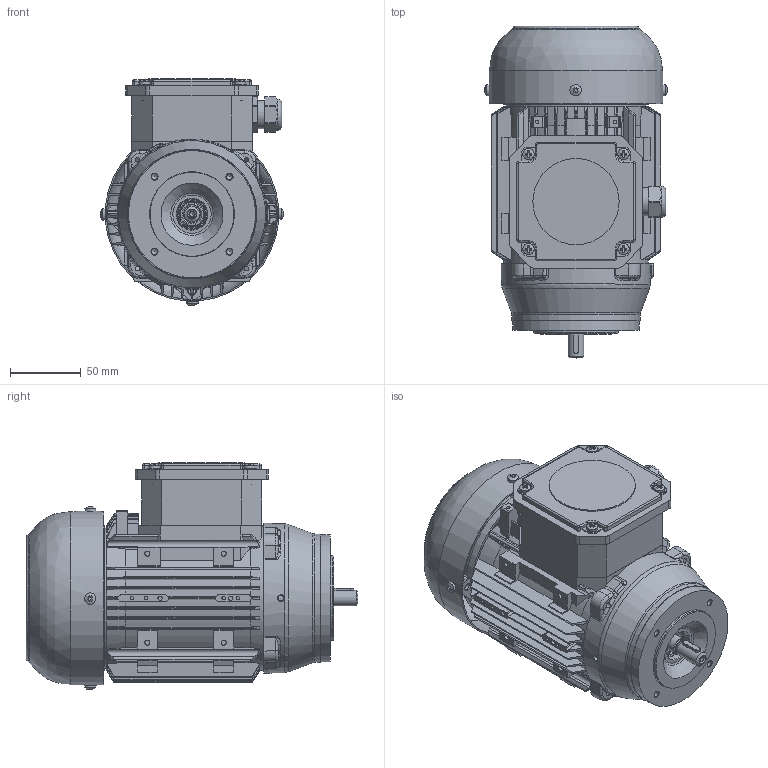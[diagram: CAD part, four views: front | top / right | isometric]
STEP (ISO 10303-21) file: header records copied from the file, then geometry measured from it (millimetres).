
FILE_DESCRIPTION(/* description */ (''),/* implementation_level */ '2;1');
FILE_NAME(/* name */ 'OUTLOOK VIEW QH63 FC B14 FT75 SPL.stp',/* time_stamp */ '2021-09-21T10:47:50+03:00',/* author */ (''),/* organization */ (''),/* preprocessor_version */ 'ST-DEVELOPER v16',/* originating_system */ 'SIEMENS PLM Software NX 11.0',/* authorisation */ '');
FILE_SCHEMA (('AUTOMOTIVE_DESIGN { 1 0 10303 214 3 1 1 1 }'));
Products named in the file (1): 260652D491E0rv03
Bounding box: 129.21 x 234.84 x 160.6 mm (x, y, z)
Volume: 550875.7 mm3; surface area: 370786.6 mm2
Topology: 39 solids, 41 shells, 2818 faces, 7333 edges, 4620 vertices
Faces by surface type: plane 1152, cylinder 914, bspline 328, cone 219, torus 128, sphere 60, extrusion 17
Full cylindrical faces by diameter (mm): 1.7 x2, 2.5 x12, 3 x4, 3.15 x1, 3.3 x10, 3.65 x14, 4 x9, 4.2 x4, 4.3 x1, 4.5 x4, 4.65 x4, 4.8 x4, 5 x4, 5.1 x1, 5.5 x1, 8 x9, 10.4 x1, 11 x2, 11.4 x2, 11.5 x1, 12 x5, 12.2 x1, 12.5 x1, 13 x1, 14.5 x1, 15.5 x2, 18 x1, 18.45 x8, 18.5 x1, 18.9 x1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
Entity records: 96116 total; most frequent: CARTESIAN_POINT 26076, ORIENTED_EDGE 13598, DIRECTION 13133, EDGE_CURVE 6799, AXIS2_PLACEMENT_3D 5020, VERTEX_POINT 4518, EDGE_LOOP 3419, VECTOR 3093
